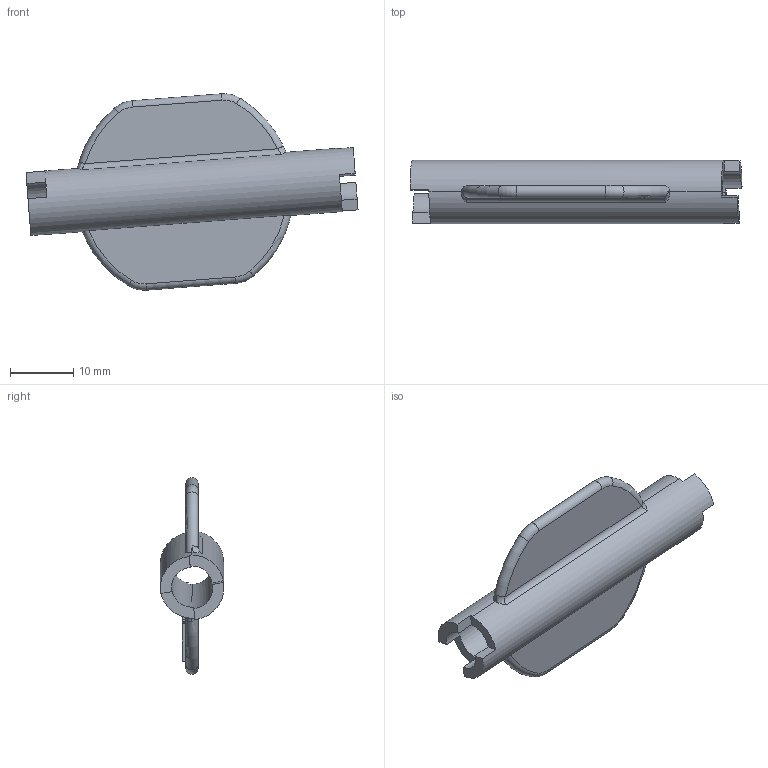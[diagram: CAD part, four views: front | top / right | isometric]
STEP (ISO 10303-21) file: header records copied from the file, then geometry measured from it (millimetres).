
FILE_DESCRIPTION((''),'2;1');
FILE_NAME('0000237111_PRT','2025-11-12T18:33:29',('Wyndorps'),(''),'CREO PARAMETRIC BY PTC INC, 2025010','CREO PARAMETRIC BY PTC INC, 2025010','');
FILE_SCHEMA(('CONFIG_CONTROL_DESIGN'));
Length unit declared in the file: millimetre
Products named in the file (1): 0000237111_PRT
Bounding box: 52.36 x 10 x 30.96 mm (x, y, z)
Volume: 3292.8 mm3; surface area: 3752.4 mm2
Topology: 1 solids, 1 shells, 116 faces, 319 edges, 210 vertices
Faces by surface type: plane 61, extrusion 31, cylinder 12, torus 8, bspline 4
Entity records: 4216 total; most frequent: CARTESIAN_POINT 1344, ORIENTED_EDGE 638, DIRECTION 486, EDGE_CURVE 319, VECTOR 212, VERTEX_POINT 210, LINE 181, AXIS2_PLACEMENT_3D 137
